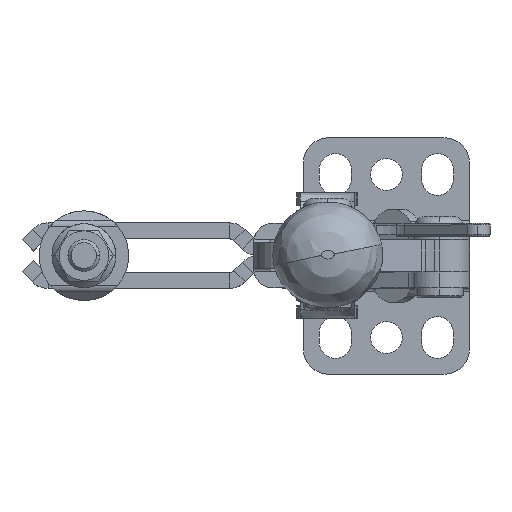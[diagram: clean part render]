
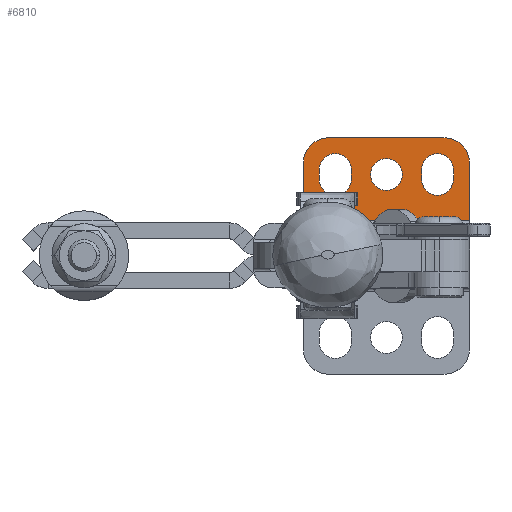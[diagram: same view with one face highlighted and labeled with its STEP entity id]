
A CAD part, top view. The second image highlights one B-rep face of the part: STEP entity #6810.
In plain terms, the highlighted planar face has unit normal (0, 0, 1).
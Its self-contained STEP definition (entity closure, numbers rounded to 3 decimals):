
#6810=ADVANCED_FACE('',(#20064,#20065,#20066,#20067),#20068,.T.);
#20064=FACE_OUTER_BOUND('',#30366,.T.);
#20065=FACE_BOUND('',#30367,.T.);
#20066=FACE_BOUND('',#30368,.T.);
#20067=FACE_BOUND('',#30369,.T.);
#20068=PLANE('',#30370);
#30366=EDGE_LOOP('',(#37176,#37177,#37178,#37179,#37180,#37181));
#30367=EDGE_LOOP('',(#37182,#37183));
#30368=EDGE_LOOP('',(#37184,#37185,#37186,#37187));
#30369=EDGE_LOOP('',(#37188,#37189,#37190,#37191));
#30370=AXIS2_PLACEMENT_3D('',#37192,#37193,#37194);
#37176=ORIENTED_EDGE('',*,*,#49512,.F.);
#37177=ORIENTED_EDGE('',*,*,#49513,.T.);
#37178=ORIENTED_EDGE('',*,*,#49514,.F.);
#37179=ORIENTED_EDGE('',*,*,#49515,.F.);
#37180=ORIENTED_EDGE('',*,*,#49516,.F.);
#37181=ORIENTED_EDGE('',*,*,#49517,.T.);
#37182=ORIENTED_EDGE('',*,*,#48924,.T.);
#37183=ORIENTED_EDGE('',*,*,#49518,.T.);
#37184=ORIENTED_EDGE('',*,*,#49519,.T.);
#37185=ORIENTED_EDGE('',*,*,#49520,.F.);
#37186=ORIENTED_EDGE('',*,*,#49521,.T.);
#37187=ORIENTED_EDGE('',*,*,#49522,.F.);
#37188=ORIENTED_EDGE('',*,*,#49523,.F.);
#37189=ORIENTED_EDGE('',*,*,#49524,.F.);
#37190=ORIENTED_EDGE('',*,*,#49525,.F.);
#37191=ORIENTED_EDGE('',*,*,#49526,.F.);
#37192=CARTESIAN_POINT('',(0.0,9.008,2.5));
#37193=DIRECTION('',(0.0,0.0,1.0));
#37194=DIRECTION('',(1.0,0.0,0.0));
#48924=EDGE_CURVE('',#68189,#68193,#68195,.T.);
#49512=EDGE_CURVE('',#69199,#69200,#69201,.T.);
#49513=EDGE_CURVE('',#69199,#69202,#69203,.T.);
#49514=EDGE_CURVE('',#69204,#69202,#69205,.T.);
#49515=EDGE_CURVE('',#69206,#69204,#69207,.T.);
#49516=EDGE_CURVE('',#69208,#69206,#69209,.T.);
#49517=EDGE_CURVE('',#69208,#69200,#69210,.T.);
#49518=EDGE_CURVE('',#68193,#68189,#69211,.T.);
#49519=EDGE_CURVE('',#69212,#69213,#69214,.T.);
#49520=EDGE_CURVE('',#69215,#69213,#69216,.T.);
#49521=EDGE_CURVE('',#69215,#69217,#69218,.T.);
#49522=EDGE_CURVE('',#69212,#69217,#69219,.T.);
#49523=EDGE_CURVE('',#69220,#69221,#69222,.T.);
#49524=EDGE_CURVE('',#69223,#69220,#69224,.T.);
#49525=EDGE_CURVE('',#69225,#69223,#69226,.T.);
#49526=EDGE_CURVE('',#69221,#69225,#69227,.T.);
#68189=VERTEX_POINT('',#74846);
#68193=VERTEX_POINT('',#74851);
#68195=CIRCLE('',#74854,2.5);
#69199=VERTEX_POINT('',#76201);
#69200=VERTEX_POINT('',#76202);
#69201=LINE('',#76203,#76204);
#69202=VERTEX_POINT('',#76205);
#69203=LINE('',#76206,#76207);
#69204=VERTEX_POINT('',#76208);
#69205=CIRCLE('',#76209,4.0);
#69206=VERTEX_POINT('',#76210);
#69207=LINE('',#76211,#76212);
#69208=VERTEX_POINT('',#76213);
#69209=CIRCLE('',#76214,4.0);
#69210=LINE('',#76215,#76216);
#69211=CIRCLE('',#76217,2.5);
#69212=VERTEX_POINT('',#76218);
#69213=VERTEX_POINT('',#76219);
#69214=LINE('',#76220,#76221);
#69215=VERTEX_POINT('',#76222);
#69216=CIRCLE('',#76223,2.5);
#69217=VERTEX_POINT('',#76224);
#69218=LINE('',#76225,#76226);
#69219=CIRCLE('',#76227,2.5);
#69220=VERTEX_POINT('',#76228);
#69221=VERTEX_POINT('',#76229);
#69222=LINE('',#76230,#76231);
#69223=VERTEX_POINT('',#76232);
#69224=CIRCLE('',#76233,2.5);
#69225=VERTEX_POINT('',#76234);
#69226=LINE('',#76235,#76236);
#69227=CIRCLE('',#76237,2.5);
#74846=CARTESIAN_POINT('',(-2.5,12.75,2.5));
#74851=CARTESIAN_POINT('',(2.5,12.75,2.5));
#74854=AXIS2_PLACEMENT_3D('',#80577,#80578,#80579);
#76201=CARTESIAN_POINT('',(13.0,5.55,2.5));
#76202=CARTESIAN_POINT('',(-13.0,5.55,2.5));
#76203=CARTESIAN_POINT('',(-13.0,5.55,2.5));
#76204=VECTOR('',#81661,1.0);
#76205=CARTESIAN_POINT('',(13.0,14.5,2.5));
#76206=CARTESIAN_POINT('',(13.0,-14.5,2.5));
#76207=VECTOR('',#81662,1.0);
#76208=CARTESIAN_POINT('',(9.0,18.5,2.5));
#76209=AXIS2_PLACEMENT_3D('',#81663,#81664,#81665);
#76210=CARTESIAN_POINT('',(-9.0,18.5,2.5));
#76211=CARTESIAN_POINT('',(-9.0,18.5,2.5));
#76212=VECTOR('',#81666,1.0);
#76213=CARTESIAN_POINT('',(-13.0,14.5,2.5));
#76214=AXIS2_PLACEMENT_3D('',#81667,#81668,#81669);
#76215=CARTESIAN_POINT('',(-13.0,14.5,2.5));
#76216=VECTOR('',#81670,1.0);
#76217=AXIS2_PLACEMENT_3D('',#81671,#81672,#81673);
#76218=CARTESIAN_POINT('',(5.5,12.0,2.5));
#76219=CARTESIAN_POINT('',(5.5,13.5,2.5));
#76220=CARTESIAN_POINT('',(5.5,9.008,2.5));
#76221=VECTOR('',#81674,1.0);
#76222=CARTESIAN_POINT('',(10.5,13.5,2.5));
#76223=AXIS2_PLACEMENT_3D('',#81675,#81676,#81677);
#76224=CARTESIAN_POINT('',(10.5,12.0,2.5));
#76225=CARTESIAN_POINT('',(10.5,9.008,2.5));
#76226=VECTOR('',#81678,1.0);
#76227=AXIS2_PLACEMENT_3D('',#81679,#81680,#81681);
#76228=CARTESIAN_POINT('',(-10.5,13.5,2.5));
#76229=CARTESIAN_POINT('',(-10.5,12.0,2.5));
#76230=CARTESIAN_POINT('',(-10.5,9.008,2.5));
#76231=VECTOR('',#81682,1.0);
#76232=CARTESIAN_POINT('',(-5.5,13.5,2.5));
#76233=AXIS2_PLACEMENT_3D('',#81683,#81684,#81685);
#76234=CARTESIAN_POINT('',(-5.5,12.0,2.5));
#76235=CARTESIAN_POINT('',(-5.5,9.008,2.5));
#76236=VECTOR('',#81686,1.0);
#76237=AXIS2_PLACEMENT_3D('',#81687,#81688,#81689);
#80577=CARTESIAN_POINT('',(0.0,12.75,2.5));
#80578=DIRECTION('',(0.0,0.0,-1.0));
#80579=DIRECTION('',(-1.0,0.0,0.0));
#81661=DIRECTION('',(-1.0,0.0,0.0));
#81662=DIRECTION('',(0.0,1.0,0.0));
#81663=CARTESIAN_POINT('',(9.0,14.5,2.5));
#81664=DIRECTION('',(0.0,0.0,-1.0));
#81665=DIRECTION('',(1.0,0.0,0.0));
#81666=DIRECTION('',(1.0,0.0,0.0));
#81667=CARTESIAN_POINT('',(-9.0,14.5,2.5));
#81668=DIRECTION('',(0.0,0.0,-1.0));
#81669=DIRECTION('',(1.0,0.0,0.0));
#81670=DIRECTION('',(0.0,-1.0,0.0));
#81671=CARTESIAN_POINT('',(0.0,12.75,2.5));
#81672=DIRECTION('',(0.0,0.0,-1.0));
#81673=DIRECTION('',(-1.0,0.0,0.0));
#81674=DIRECTION('',(0.0,1.0,0.0));
#81675=CARTESIAN_POINT('',(8.0,13.5,2.5));
#81676=DIRECTION('',(0.0,0.0,1.0));
#81677=DIRECTION('',(1.0,0.0,0.0));
#81678=DIRECTION('',(0.0,-1.0,0.0));
#81679=CARTESIAN_POINT('',(8.0,12.0,2.5));
#81680=DIRECTION('',(0.0,0.0,1.0));
#81681=DIRECTION('',(1.0,0.0,0.0));
#81682=DIRECTION('',(0.0,-1.0,0.0));
#81683=CARTESIAN_POINT('',(-8.0,13.5,2.5));
#81684=DIRECTION('',(0.0,0.0,1.0));
#81685=DIRECTION('',(1.0,0.0,0.0));
#81686=DIRECTION('',(0.0,1.0,0.0));
#81687=CARTESIAN_POINT('',(-8.0,12.0,2.5));
#81688=DIRECTION('',(0.0,0.0,1.0));
#81689=DIRECTION('',(1.0,0.0,0.0));
